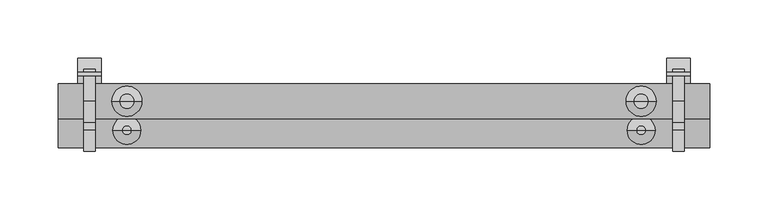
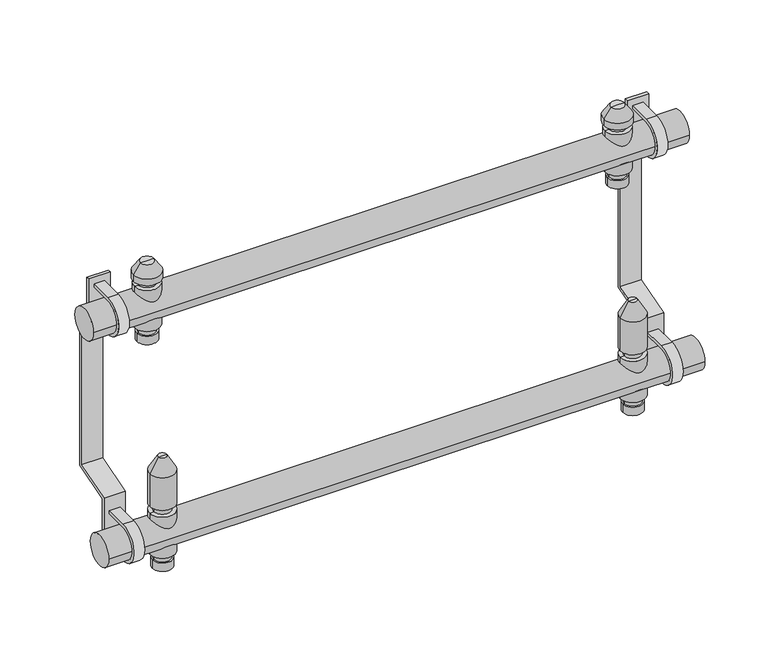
"""IFC4 building model written with IfcOpenShell, lengths in millimetres: valve geometry, PL AT_Manifold_FT-EV : 10 circuits."""

import ifcopenshell
import ifcopenshell.guid

model = None  # the IFC model being written
_history = None  # IfcOwnerHistory: only IFC2X3 demands one
_inside = {}  # id of a spatial element -> (the spatial element, [elements in it])
_under = {}  # id of a project, library or spatial element -> (it, [spatial elements below it])
_declared = {}  # id of a project -> (the project, [libraries it declares])
_typed = {}  # id of a type object -> (the type object, [elements of that type])
_made_of = {}  # id of a material, layer set ... -> (it, [elements and type objects made of it])


def new_model(schema):
    """Start an empty IFC model of exactly this schema.

    Asked for "IFC4X3", IfcOpenShell would pick the latest addendum, in which some entities
    have other attributes; the version numbers below select the first issue.
    IFC2X3 requires an IfcOwnerHistory on every rooted entity: one is made here for all.
    """
    global model, _history
    if schema == "IFC4X3":
        model = ifcopenshell.file(schema_version=(4, 3, 0, 0))
    else:
        model = ifcopenshell.file(schema=schema)
    _inside.clear()
    _under.clear()
    _declared.clear()
    _typed.clear()
    _made_of.clear()
    _history = None
    if model.schema == "IFC2X3":
        org = make("IfcOrganization", Name="unknown")
        user = make(
            "IfcPersonAndOrganization",
            ThePerson=make("IfcPerson", FamilyName="unknown"),
            TheOrganization=org,
        )
        app = make(
            "IfcApplication",
            ApplicationDeveloper=org,
            Version="unknown",
            ApplicationFullName="unknown",
            ApplicationIdentifier="unknown",
        )
        _history = make(
            "IfcOwnerHistory",
            OwningUser=user,
            OwningApplication=app,
            ChangeAction="ADDED",
            CreationDate=0,
        )
    return model


def make(cls, **values):
    """One entity of the class cls with the attributes given. An attribute that is None is left unset."""
    return model.create_entity(
        cls, **{name: value for name, value in values.items() if value is not None}
    )


def rooted(cls, **values):
    """An entity with a GlobalId (a new one), such as an element, a storey or a relation."""
    return make(cls, GlobalId=ifcopenshell.guid.new(), OwnerHistory=_history, **values)


def si_unit(unit_type, name, prefix=None):
    """IfcSIUnit, for example si_unit("LENGTHUNIT", "METRE", prefix="MILLI")."""
    return make("IfcSIUnit", UnitType=unit_type, Prefix=prefix, Name=name)


def assignment(units):
    """IfcUnitAssignment: the units of a project."""
    return None if units is None else make("IfcUnitAssignment", Units=units)


def point(xyz):
    """IfcCartesianPoint."""
    return None if xyz is None else make("IfcCartesianPoint", Coordinates=xyz)


def direction(xyz):
    """IfcDirection."""
    return None if xyz is None else make("IfcDirection", DirectionRatios=xyz)


def frame(location, z_axis=None, x_axis=None):
    """IfcAxis2Placement3D, a coordinate frame: its origin and axes. An axis left out is left unset."""
    return make(
        "IfcAxis2Placement3D",
        Location=point(location),
        Axis=direction(z_axis),
        RefDirection=direction(x_axis),
    )


def frame_2d(location, x_axis=None):
    """IfcAxis2Placement2D, a coordinate frame in the plane: its origin and x axis."""
    return make(
        "IfcAxis2Placement2D", Location=point(location), RefDirection=direction(x_axis)
    )


def origin():
    """The frame at (0, 0, 0) with its axes left unset."""
    return frame((0.0, 0.0, 0.0))


def origin_2d():
    """The frame at (0, 0) in the plane with its x axis left unset."""
    return frame_2d((0.0, 0.0))


def place(relative_to, where):
    """IfcLocalPlacement: puts the frame where relative to a parent placement (None: the world)."""
    return make(
        "IfcLocalPlacement", PlacementRelTo=relative_to, RelativePlacement=where
    )


def context(
    kind, dimensions, precision=None, world=None, true_north=None, identifier=None
):
    """IfcGeometricRepresentationContext, for example the 3D "Model" context."""
    return make(
        "IfcGeometricRepresentationContext",
        ContextIdentifier=identifier,
        ContextType=kind,
        CoordinateSpaceDimension=dimensions,
        Precision=precision,
        WorldCoordinateSystem=world,
        TrueNorth=true_north,
    )


def project(units=None, contexts=None):
    """IfcProject with its units and contexts."""
    return rooted(
        "IfcProject",
        Name="project",
        RepresentationContexts=contexts,
        UnitsInContext=assignment(units),
    )


def spatial(cls, under=None, at=None, **own):
    """A site, building, storey or space (cls), placed at a placement, below another one or the project."""
    s = rooted(cls, ObjectPlacement=at, **own)
    if under is not None:
        _under.setdefault(under.id(), (under, []))[1].append(s)
    return s


def polyline(points):
    """IfcPolyline through the points."""
    return make("IfcPolyline", Points=[point(p) for p in points])


def circle_curve(where, radius):
    """IfcCircle in the frame where."""
    return make("IfcCircle", Position=where, Radius=radius)


def trimmed(basis, trim1, trim2, sense, master):
    """IfcTrimmedCurve: the piece of a basis curve between two trims."""
    return make(
        "IfcTrimmedCurve",
        BasisCurve=basis,
        Trim1=trim1,
        Trim2=trim2,
        SenseAgreement=sense,
        MasterRepresentation=master,
    )


def segment(curve, same_sense, transition):
    """IfcCompositeCurveSegment."""
    return make(
        "IfcCompositeCurveSegment",
        Transition=transition,
        SameSense=same_sense,
        ParentCurve=curve,
    )


def composite_curve(segments, self_intersect=None):
    """IfcCompositeCurve: segments joined end to end."""
    return make("IfcCompositeCurve", Segments=segments, SelfIntersect=self_intersect)


def outline(outer, holes=None, kind="AREA"):
    """IfcArbitraryClosedProfileDef: a profile drawn as a closed curve; with holes, ...WithVoids."""
    if holes is None:
        return make("IfcArbitraryClosedProfileDef", ProfileType=kind, OuterCurve=outer)
    return make(
        "IfcArbitraryProfileDefWithVoids",
        ProfileType=kind,
        OuterCurve=outer,
        InnerCurves=holes,
    )


def extrude(swept, where, along, depth):
    """IfcExtrudedAreaSolid: the profile swept, set in the frame where, extruded along a direction by depth."""
    return make(
        "IfcExtrudedAreaSolid",
        SweptArea=swept,
        Position=where,
        ExtrudedDirection=direction(along),
        Depth=depth,
    )


def shape(context_of_items, identifier, shape_type, items):
    """IfcShapeRepresentation: the items that make up one representation, for example the "Body"."""
    return make(
        "IfcShapeRepresentation",
        ContextOfItems=context_of_items,
        RepresentationIdentifier=identifier,
        RepresentationType=shape_type,
        Items=items,
    )


def source(mapping_origin, context_of_items, identifier, shape_type, items):
    """IfcRepresentationMap: a shape defined once, which mapped items show again and again."""
    return make(
        "IfcRepresentationMap",
        MappingOrigin=mapping_origin,
        MappedRepresentation=shape(context_of_items, identifier, shape_type, items),
    )


def transform(
    local_origin,
    x_axis=None,
    y_axis=None,
    z_axis=None,
    scale=None,
    scale2=None,
    scale3=None,
    uniform=True,
):
    """IfcCartesianTransformationOperator3D, or its non-uniform kind. x_axis, y_axis, z_axis: its Axis1, 2, 3."""
    if uniform:
        return make(
            "IfcCartesianTransformationOperator3D",
            Axis1=direction(x_axis),
            Axis2=direction(y_axis),
            LocalOrigin=point(local_origin),
            Scale=scale,
            Axis3=direction(z_axis),
        )
    return make(
        "IfcCartesianTransformationOperator3DnonUniform",
        Axis1=direction(x_axis),
        Axis2=direction(y_axis),
        LocalOrigin=point(local_origin),
        Scale=scale,
        Axis3=direction(z_axis),
        Scale2=scale2,
        Scale3=scale3,
    )


def mapped(mapping_source, mapping_target):
    """IfcMappedItem: shows the shape of a source again, moved by a transform."""
    return make(
        "IfcMappedItem", MappingSource=mapping_source, MappingTarget=mapping_target
    )


def made_of(thing, what):
    """Note that an element or type object is made of a material, layer set ...; save() writes the relation."""
    if what is not None:
        _made_of.setdefault(what.id(), (what, []))[1].append(thing)
    return thing


def element(
    cls,
    number,
    at=None,
    inside=None,
    cuts=None,
    type_object=None,
    material=None,
    context=None,
    identifier="Body",
    shape_type=None,
    held_by="IfcProductDefinitionShape",
    body=None,
    shapes=None,
    **own,
):
    """One element of the class cls, such as IfcWall. Its Tag is "e" and its number.

    at: its placement. inside: the storey or other place that contains it. cuts: it is an
    opening in that element (IfcRelVoidsElement). A single representation is given by context,
    identifier, shape_type and body (its items); several are given by shapes. held_by: the class
    of the entity that holds the representations. save() writes the other relations.
    """
    e = rooted(cls, Tag="e%d" % number, ObjectPlacement=at, **own)
    if body is not None:
        shapes = [shape(context, identifier, shape_type, body)]
    if shapes is not None:
        e.Representation = make(held_by, Representations=shapes)
    if inside is not None:
        _inside.setdefault(inside.id(), (inside, []))[1].append(e)
    if cuts is not None:
        rooted(
            "IfcRelVoidsElement", RelatingBuildingElement=cuts, RelatedOpeningElement=e
        )
    if type_object is not None:
        _typed.setdefault(type_object.id(), (type_object, []))[1].append(e)
    return made_of(e, material)


def aggregate(whole, parts):
    """IfcRelAggregates: a whole, such as a stair, and the parts it consists of."""
    return rooted("IfcRelAggregates", RelatingObject=whole, RelatedObjects=parts)


def save(model, path):
    """Write the relations noted so far, then the file.

    IfcRelAggregates (storeys below a building ...), IfcRelContainedInSpatialStructure (elements
    in a storey), IfcRelDefinesByType, IfcRelAssociatesMaterial and IfcRelDeclares: one each for
    every whole, place, type object, material and project.
    """
    for whole, parts in _under.values():
        aggregate(whole, parts)
    for where, things in _inside.values():
        rooted(
            "IfcRelContainedInSpatialStructure",
            RelatedElements=things,
            RelatingStructure=where,
        )
    for kind, things in _typed.values():
        rooted("IfcRelDefinesByType", RelatedObjects=things, RelatingType=kind)
    for what, things in _made_of.values():
        rooted("IfcRelAssociatesMaterial", RelatedObjects=things, RelatingMaterial=what)
    for by, libraries in _declared.values():
        rooted("IfcRelDeclares", RelatingContext=by, RelatedDefinitions=libraries)
    model.write(path)


def plane_surface(at):
    """IfcPlane: the flat surface through the origin of the frame at, square to its z axis."""
    return make("IfcPlane", Position=at)


def cylinder_surface(at, radius):
    """IfcCylindricalSurface: all points at the distance radius from the z axis of the frame at."""
    return make("IfcCylindricalSurface", Position=at, Radius=radius)


def revolved_surface(curve, axis_point, axis_direction):
    """IfcSurfaceOfRevolution: the curve turned about the line through axis_point along axis_direction."""
    return make(
        "IfcSurfaceOfRevolution",
        SweptCurve=make("IfcArbitraryOpenProfileDef", ProfileType="CURVE", Curve=curve),
        AxisPosition=make("IfcAxis1Placement", Location=point(axis_point), Axis=direction(axis_direction)),
    )


def advanced_brep(points, edges, surfaces, faces):
    """IfcAdvancedBrep: a solid bounded by faces that lie on surfaces and meet in shared edges.

    An edge is (start, end): straight between two places in points (the first is 0);
    or (start, end, curve); or (start, end, curve, False) where it runs against its curve.
    A face is (place in surfaces, loops), or (place, loops, False) where it looks against
    its surface's normal. A loop lists edges by number (the first is 1), with a minus sign
    where the edge is run from its end to its start. The first loop is the outer one.
    """
    corners = [point(p) for p in points]
    vertices = [make("IfcVertexPoint", VertexGeometry=c) for c in corners]
    made = []
    for start, end, *more in edges:
        made.append(
            make(
                "IfcEdgeCurve",
                EdgeStart=vertices[start],
                EdgeEnd=vertices[end],
                EdgeGeometry=more[0] if more else make("IfcPolyline", Points=[corners[start], corners[end]]),
                SameSense=more[1] if len(more) > 1 else True,
            )
        )
    hull = []
    for where, loops, *sense in faces:
        bounds = []
        for j, loop in enumerate(loops):
            ring = [make("IfcOrientedEdge", EdgeElement=made[abs(k) - 1], Orientation=k > 0) for k in loop]
            bounds.append(
                make(
                    "IfcFaceOuterBound" if j == 0 else "IfcFaceBound",
                    Bound=make("IfcEdgeLoop", EdgeList=ring),
                    Orientation=True,
                )
            )
        hull.append(make("IfcAdvancedFace", Bounds=bounds, FaceSurface=surfaces[where], SameSense=sense[0] if sense else True))
    return make("IfcAdvancedBrep", Outer=make("IfcClosedShell", CfsFaces=hull))


def valve_882e19a6(model_context):
    return source(origin(), model_context, "Body", "SolidModel", [
        advanced_brep(
        [(474.5, 0.0, -35.11267), (493.5, 0.0, -35.11267), (484.0, 0.0, -35.11267), (474.5, 0.0, -27.0369646), (493.5, 0.0, -27.0369646), (476.0, 0.0, -27.0369646), (492.0, 0.0, -27.0369646), (476.0, 0.0, -20.330253), (492.0, 0.0, -20.330253), (472.0, 0.0, -20.330253), (496.0, 0.0, -20.330253), (472.0, 0.0, 20.330253), (496.0, 0.0, 20.330253), (476.0, 0.0, 20.330253), (492.0, 0.0, 20.330253), (476.0, 0.0, 27.0474786), (492.0, 0.0, 27.0474786), (472.0, 0.0, 27.0474786), (496.0, 0.0, 27.0474786), (472.0, 0.0, 59.4084325), (496.0, 0.0, 59.4084325), (480.0, 0.0, 73.264839), (488.0, 0.0, 73.264839), (484.0, 0.0, 73.264839)],
        [
            (0, 1, circle_curve(frame((484.0, 0.0, -35.11267), z_axis=(0.0, 0.0, -1.0), x_axis=(1.0, 0.0, 0.0)), 9.5)),
            (1, 2),
            (2, 0),
            (1, 0, circle_curve(frame((484.0, 0.0, -35.11267), z_axis=(0.0, 0.0, -1.0), x_axis=(1.0, 0.0, 0.0)), 9.5)),
            (3, 4, circle_curve(frame((484.0, 0.0, -27.0369646), z_axis=(0.0, 0.0, -1.0), x_axis=(1.0, 0.0, 0.0)), 9.5)),
            (4, 1),
            (0, 3),
            (4, 3, circle_curve(frame((484.0, 0.0, -27.0369646), z_axis=(0.0, 0.0, -1.0), x_axis=(1.0, 0.0, 0.0)), 9.5)),
            (5, 6, circle_curve(frame((484.0, 0.0, -27.0369646), z_axis=(0.0, 0.0, -1.0), x_axis=(1.0, 0.0, 0.0)), 8.0)),
            (6, 4),
            (3, 5),
            (6, 5, circle_curve(frame((484.0, 0.0, -27.0369646), z_axis=(0.0, 0.0, -1.0), x_axis=(1.0, 0.0, 0.0)), 8.0)),
            (7, 8, circle_curve(frame((484.0, 0.0, -20.330253), z_axis=(0.0, 0.0, -1.0), x_axis=(1.0, 0.0, 0.0)), 8.0)),
            (8, 6),
            (5, 7),
            (8, 7, circle_curve(frame((484.0, 0.0, -20.330253), z_axis=(0.0, 0.0, -1.0), x_axis=(1.0, 0.0, 0.0)), 8.0)),
            (9, 10, circle_curve(frame((484.0, 0.0, -20.330253), z_axis=(0.0, 0.0, -1.0), x_axis=(1.0, 0.0, 0.0)), 12.0)),
            (10, 8),
            (7, 9),
            (10, 9, circle_curve(frame((484.0, 0.0, -20.330253), z_axis=(0.0, 0.0, -1.0), x_axis=(1.0, 0.0, 0.0)), 12.0)),
            (11, 12, circle_curve(frame((484.0, 0.0, 20.330253), z_axis=(0.0, 0.0, -1.0), x_axis=(1.0, 0.0, 0.0)), 12.0)),
            (12, 10),
            (9, 11),
            (12, 11, circle_curve(frame((484.0, 0.0, 20.330253), z_axis=(0.0, 0.0, -1.0), x_axis=(1.0, 0.0, 0.0)), 12.0)),
            (13, 14, circle_curve(frame((484.0, 0.0, 20.330253), z_axis=(0.0, 0.0, -1.0), x_axis=(1.0, 0.0, 0.0)), 8.0)),
            (14, 12),
            (11, 13),
            (14, 13, circle_curve(frame((484.0, 0.0, 20.330253), z_axis=(0.0, 0.0, -1.0), x_axis=(1.0, 0.0, 0.0)), 8.0)),
            (15, 16, circle_curve(frame((484.0, 0.0, 27.0474786), z_axis=(0.0, 0.0, -1.0), x_axis=(1.0, 0.0, 0.0)), 8.0)),
            (16, 14),
            (13, 15),
            (16, 15, circle_curve(frame((484.0, 0.0, 27.0474786), z_axis=(0.0, 0.0, -1.0), x_axis=(1.0, 0.0, 0.0)), 8.0)),
            (17, 18, circle_curve(frame((484.0, 0.0, 27.0474786), z_axis=(0.0, 0.0, -1.0), x_axis=(1.0, 0.0, 0.0)), 12.0)),
            (18, 16),
            (15, 17),
            (18, 17, circle_curve(frame((484.0, 0.0, 27.0474786), z_axis=(0.0, 0.0, -1.0), x_axis=(1.0, 0.0, 0.0)), 12.0)),
            (19, 20, circle_curve(frame((484.0, 0.0, 59.4084325), z_axis=(0.0, 0.0, -1.0), x_axis=(1.0, 0.0, 0.0)), 12.0)),
            (20, 18),
            (17, 19),
            (20, 19, circle_curve(frame((484.0, 0.0, 59.4084325), z_axis=(0.0, 0.0, -1.0), x_axis=(1.0, 0.0, 0.0)), 12.0)),
            (21, 22, circle_curve(frame((484.0, 0.0, 73.264839), z_axis=(0.0, 0.0, -1.0), x_axis=(1.0, 0.0, 0.0)), 4.0)),
            (22, 20),
            (19, 21),
            (22, 21, circle_curve(frame((484.0, 0.0, 73.264839), z_axis=(0.0, 0.0, -1.0), x_axis=(1.0, 0.0, 0.0)), 4.0)),
            (23, 22),
            (21, 23),
        ],
        [
            plane_surface(frame((484.0, 0.0, -35.11267), z_axis=(0.0, 0.0, -1.0), x_axis=(1.0, 0.0, 0.0))),
            cylinder_surface(frame((484.0, 0.0, 58.264839), z_axis=(0.0, 0.0, 1.0), x_axis=(1.0, 0.0, 0.0)), 9.5),
            plane_surface(frame((484.0, 0.0, -27.0369646), z_axis=(0.0, 0.0, 1.0), x_axis=(1.0, 0.0, 0.0))),
            cylinder_surface(frame((484.0, 0.0, 58.264839), z_axis=(0.0, 0.0, 1.0), x_axis=(1.0, 0.0, 0.0)), 8.0),
            plane_surface(frame((484.0, 0.0, -20.330253), z_axis=(0.0, 0.0, -1.0), x_axis=(1.0, 0.0, 0.0))),
            cylinder_surface(frame((484.0, 0.0, 58.264839), z_axis=(0.0, 0.0, 1.0), x_axis=(1.0, 0.0, 0.0)), 12.0),
            plane_surface(frame((484.0, 0.0, 20.330253), z_axis=(0.0, 0.0, 1.0), x_axis=(1.0, 0.0, 0.0))),
            plane_surface(frame((484.0, 0.0, 27.0474786), z_axis=(0.0, 0.0, -1.0), x_axis=(1.0, 0.0, 0.0))),
            revolved_surface(polyline([(496.0, 0.0, 59.4084325), (488.0, 0.0, 73.264839)]), (484.0, 0.0, 58.264839), (0.0, 0.0, 1.0)),
            plane_surface(frame((484.0, 0.0, 73.264839), z_axis=(0.0, 0.0, 1.0), x_axis=(1.0, 0.0, 0.0))),
        ],
        [
            (0, [[1, 2, 3]]),
            (0, [[4, -3, -2]]),
            (1, [[5, 6, -1, 7]]),
            (1, [[8, -7, -4, -6]]),
            (2, [[9, 10, -5, 11]]),
            (2, [[12, -11, -8, -10]]),
            (3, [[13, 14, -9, 15]]),
            (3, [[16, -15, -12, -14]]),
            (4, [[17, 18, -13, 19]]),
            (4, [[20, -19, -16, -18]]),
            (5, [[21, 22, -17, 23]]),
            (5, [[24, -23, -20, -22]]),
            (6, [[25, 26, -21, 27]]),
            (6, [[28, -27, -24, -26]]),
            (3, [[29, 30, -25, 31]]),
            (3, [[32, -31, -28, -30]]),
            (7, [[33, 34, -29, 35]]),
            (7, [[36, -35, -32, -34]]),
            (5, [[37, 38, -33, 39]]),
            (5, [[40, -39, -36, -38]]),
            (8, [[41, 42, -37, 43]]),
            (8, [[44, -43, -40, -42]]),
            (9, [[45, -41, 46]]),
            (9, [[-46, -44, -45]]),
        ],
    ),
        advanced_brep(
        [(474.5, 25.0, 174.88733), (493.5, 25.0, 174.88733), (484.0, 25.0, 174.88733), (474.5, 25.0, 182.9630354), (493.5, 25.0, 182.9630354), (476.0, 25.0, 182.9630354), (492.0, 25.0, 182.9630354), (476.0, 25.0, 189.669747), (492.0, 25.0, 189.669747), (472.0, 25.0, 189.669747), (496.0, 25.0, 189.669747), (472.0, 25.0, 230.330253), (496.0, 25.0, 230.330253), (476.0, 25.0, 230.330253), (492.0, 25.0, 230.330253), (476.0, 25.0, 236.0474786), (492.0, 25.0, 236.0474786), (471.0, 25.0, 236.0474786), (497.0, 25.0, 236.0474786), (471.0, 25.0, 242.337955), (497.0, 25.0, 242.337955), (477.6551779, 25.0, 251.842534), (490.3448221, 25.0, 251.842534), (484.0, 25.0, 251.842534)],
        [
            (0, 1, circle_curve(frame((484.0, 25.0, 174.88733), z_axis=(0.0, 0.0, -1.0), x_axis=(1.0, 0.0, 0.0)), 9.5)),
            (1, 2),
            (2, 0),
            (1, 0, circle_curve(frame((484.0, 25.0, 174.88733), z_axis=(0.0, 0.0, -1.0), x_axis=(1.0, 0.0, 0.0)), 9.5)),
            (3, 4, circle_curve(frame((484.0, 25.0, 182.9630354), z_axis=(0.0, 0.0, -1.0), x_axis=(1.0, 0.0, 0.0)), 9.5)),
            (4, 1),
            (0, 3),
            (4, 3, circle_curve(frame((484.0, 25.0, 182.9630354), z_axis=(0.0, 0.0, -1.0), x_axis=(1.0, 0.0, 0.0)), 9.5)),
            (5, 6, circle_curve(frame((484.0, 25.0, 182.9630354), z_axis=(0.0, 0.0, -1.0), x_axis=(1.0, 0.0, 0.0)), 8.0)),
            (6, 4),
            (3, 5),
            (6, 5, circle_curve(frame((484.0, 25.0, 182.9630354), z_axis=(0.0, 0.0, -1.0), x_axis=(1.0, 0.0, 0.0)), 8.0)),
            (7, 8, circle_curve(frame((484.0, 25.0, 189.669747), z_axis=(0.0, 0.0, -1.0), x_axis=(1.0, 0.0, 0.0)), 8.0)),
            (8, 6),
            (5, 7),
            (8, 7, circle_curve(frame((484.0, 25.0, 189.669747), z_axis=(0.0, 0.0, -1.0), x_axis=(1.0, 0.0, 0.0)), 8.0)),
            (9, 10, circle_curve(frame((484.0, 25.0, 189.669747), z_axis=(0.0, 0.0, -1.0), x_axis=(1.0, 0.0, 0.0)), 12.0)),
            (10, 8),
            (7, 9),
            (10, 9, circle_curve(frame((484.0, 25.0, 189.669747), z_axis=(0.0, 0.0, -1.0), x_axis=(1.0, 0.0, 0.0)), 12.0)),
            (11, 12, circle_curve(frame((484.0, 25.0, 230.330253), z_axis=(0.0, 0.0, -1.0), x_axis=(1.0, 0.0, 0.0)), 12.0)),
            (12, 10),
            (9, 11),
            (12, 11, circle_curve(frame((484.0, 25.0, 230.330253), z_axis=(0.0, 0.0, -1.0), x_axis=(1.0, 0.0, 0.0)), 12.0)),
            (13, 14, circle_curve(frame((484.0, 25.0, 230.330253), z_axis=(0.0, 0.0, -1.0), x_axis=(1.0, 0.0, 0.0)), 8.0)),
            (14, 12),
            (11, 13),
            (14, 13, circle_curve(frame((484.0, 25.0, 230.330253), z_axis=(0.0, 0.0, -1.0), x_axis=(1.0, 0.0, 0.0)), 8.0)),
            (15, 16, circle_curve(frame((484.0, 25.0, 236.0474786), z_axis=(0.0, 0.0, -1.0), x_axis=(1.0, 0.0, 0.0)), 8.0)),
            (16, 14),
            (13, 15),
            (16, 15, circle_curve(frame((484.0, 25.0, 236.0474786), z_axis=(0.0, 0.0, -1.0), x_axis=(1.0, 0.0, 0.0)), 8.0)),
            (17, 18, circle_curve(frame((484.0, 25.0, 236.0474786), z_axis=(0.0, 0.0, -1.0), x_axis=(1.0, 0.0, 0.0)), 13.0)),
            (18, 16),
            (15, 17),
            (18, 17, circle_curve(frame((484.0, 25.0, 236.0474786), z_axis=(0.0, 0.0, -1.0), x_axis=(1.0, 0.0, 0.0)), 13.0)),
            (19, 20, circle_curve(frame((484.0, 25.0, 242.337955), z_axis=(0.0, 0.0, -1.0), x_axis=(1.0, 0.0, 0.0)), 13.0)),
            (20, 18),
            (17, 19),
            (20, 19, circle_curve(frame((484.0, 25.0, 242.337955), z_axis=(0.0, 0.0, -1.0), x_axis=(1.0, 0.0, 0.0)), 13.0)),
            (21, 22, circle_curve(frame((484.0, 25.0, 251.842534), z_axis=(0.0, 0.0, -1.0), x_axis=(1.0, 0.0, 0.0)), 6.3448221)),
            (22, 20),
            (19, 21),
            (22, 21, circle_curve(frame((484.0, 25.0, 251.842534), z_axis=(0.0, 0.0, -1.0), x_axis=(1.0, 0.0, 0.0)), 6.3448221)),
            (23, 22),
            (21, 23),
        ],
        [
            plane_surface(frame((484.0, 25.0, 174.88733), z_axis=(0.0, 0.0, -1.0), x_axis=(1.0, 0.0, 0.0))),
            cylinder_surface(frame((484.0, 25.0, 247.7026565), z_axis=(0.0, 0.0, 1.0), x_axis=(1.0, 0.0, 0.0)), 9.5),
            plane_surface(frame((484.0, 25.0, 182.9630354), z_axis=(0.0, 0.0, 1.0), x_axis=(1.0, 0.0, 0.0))),
            cylinder_surface(frame((484.0, 25.0, 247.7026565), z_axis=(0.0, 0.0, 1.0), x_axis=(1.0, 0.0, 0.0)), 8.0),
            plane_surface(frame((484.0, 25.0, 189.669747), z_axis=(0.0, 0.0, -1.0), x_axis=(1.0, 0.0, 0.0))),
            cylinder_surface(frame((484.0, 25.0, 247.7026565), z_axis=(0.0, 0.0, 1.0), x_axis=(1.0, 0.0, 0.0)), 12.0),
            plane_surface(frame((484.0, 25.0, 230.330253), z_axis=(0.0, 0.0, 1.0), x_axis=(1.0, 0.0, 0.0))),
            plane_surface(frame((484.0, 25.0, 236.0474786), z_axis=(0.0, 0.0, -1.0), x_axis=(1.0, 0.0, 0.0))),
            cylinder_surface(frame((484.0, 25.0, 247.7026565), z_axis=(0.0, 0.0, 1.0), x_axis=(1.0, 0.0, 0.0)), 13.0),
            revolved_surface(polyline([(497.0, 25.0, 242.337955), (490.3448221, 25.0, 251.842534)]), (484.0, 25.0, 247.7026565), (0.0, 0.0, 1.0)),
            plane_surface(frame((484.0, 25.0, 251.842534), z_axis=(0.0, 0.0, 1.0), x_axis=(1.0, 0.0, 0.0))),
        ],
        [
            (0, [[1, 2, 3]]),
            (0, [[4, -3, -2]]),
            (1, [[5, 6, -1, 7]]),
            (1, [[8, -7, -4, -6]]),
            (2, [[9, 10, -5, 11]]),
            (2, [[12, -11, -8, -10]]),
            (3, [[13, 14, -9, 15]]),
            (3, [[16, -15, -12, -14]]),
            (4, [[17, 18, -13, 19]]),
            (4, [[20, -19, -16, -18]]),
            (5, [[21, 22, -17, 23]]),
            (5, [[24, -23, -20, -22]]),
            (6, [[25, 26, -21, 27]]),
            (6, [[28, -27, -24, -26]]),
            (3, [[29, 30, -25, 31]]),
            (3, [[32, -31, -28, -30]]),
            (7, [[33, 34, -29, 35]]),
            (7, [[36, -35, -32, -34]]),
            (8, [[37, 38, -33, 39]]),
            (8, [[40, -39, -36, -38]]),
            (9, [[41, 42, -37, 43]]),
            (9, [[44, -43, -40, -42]]),
            (10, [[45, -41, 46]]),
            (10, [[-46, -44, -45]]),
        ],
    ),
        advanced_brep(
        [(32.5, 25.0, 174.88733), (51.5, 25.0, 174.88733), (42.0, 25.0, 174.88733), (32.5, 25.0, 182.9630354), (51.5, 25.0, 182.9630354), (34.0, 25.0, 182.9630354), (50.0, 25.0, 182.9630354), (34.0, 25.0, 189.669747), (50.0, 25.0, 189.669747), (30.0, 25.0, 189.669747), (54.0, 25.0, 189.669747), (30.0, 25.0, 230.330253), (54.0, 25.0, 230.330253), (34.0, 25.0, 230.330253), (50.0, 25.0, 230.330253), (34.0, 25.0, 236.0474786), (50.0, 25.0, 236.0474786), (29.0, 25.0, 236.0474786), (55.0, 25.0, 236.0474786), (29.0, 25.0, 242.337955), (55.0, 25.0, 242.337955), (35.6551779, 25.0, 251.842534), (48.3448221, 25.0, 251.842534), (42.0, 25.0, 251.842534)],
        [
            (0, 1, circle_curve(frame((42.0, 25.0, 174.88733), z_axis=(0.0, 0.0, -1.0), x_axis=(1.0, 0.0, 0.0)), 9.5)),
            (1, 2),
            (2, 0),
            (1, 0, circle_curve(frame((42.0, 25.0, 174.88733), z_axis=(0.0, 0.0, -1.0), x_axis=(1.0, 0.0, 0.0)), 9.5)),
            (3, 4, circle_curve(frame((42.0, 25.0, 182.9630354), z_axis=(0.0, 0.0, -1.0), x_axis=(1.0, 0.0, 0.0)), 9.5)),
            (4, 1),
            (0, 3),
            (4, 3, circle_curve(frame((42.0, 25.0, 182.9630354), z_axis=(0.0, 0.0, -1.0), x_axis=(1.0, 0.0, 0.0)), 9.5)),
            (5, 6, circle_curve(frame((42.0, 25.0, 182.9630354), z_axis=(0.0, 0.0, -1.0), x_axis=(1.0, 0.0, 0.0)), 8.0)),
            (6, 4),
            (3, 5),
            (6, 5, circle_curve(frame((42.0, 25.0, 182.9630354), z_axis=(0.0, 0.0, -1.0), x_axis=(1.0, 0.0, 0.0)), 8.0)),
            (7, 8, circle_curve(frame((42.0, 25.0, 189.669747), z_axis=(0.0, 0.0, -1.0), x_axis=(1.0, 0.0, 0.0)), 8.0)),
            (8, 6),
            (5, 7),
            (8, 7, circle_curve(frame((42.0, 25.0, 189.669747), z_axis=(0.0, 0.0, -1.0), x_axis=(1.0, 0.0, 0.0)), 8.0)),
            (9, 10, circle_curve(frame((42.0, 25.0, 189.669747), z_axis=(0.0, 0.0, -1.0), x_axis=(1.0, 0.0, 0.0)), 12.0)),
            (10, 8),
            (7, 9),
            (10, 9, circle_curve(frame((42.0, 25.0, 189.669747), z_axis=(0.0, 0.0, -1.0), x_axis=(1.0, 0.0, 0.0)), 12.0)),
            (11, 12, circle_curve(frame((42.0, 25.0, 230.330253), z_axis=(0.0, 0.0, -1.0), x_axis=(1.0, 0.0, 0.0)), 12.0)),
            (12, 10),
            (9, 11),
            (12, 11, circle_curve(frame((42.0, 25.0, 230.330253), z_axis=(0.0, 0.0, -1.0), x_axis=(1.0, 0.0, 0.0)), 12.0)),
            (13, 14, circle_curve(frame((42.0, 25.0, 230.330253), z_axis=(0.0, 0.0, -1.0), x_axis=(1.0, 0.0, 0.0)), 8.0)),
            (14, 12),
            (11, 13),
            (14, 13, circle_curve(frame((42.0, 25.0, 230.330253), z_axis=(0.0, 0.0, -1.0), x_axis=(1.0, 0.0, 0.0)), 8.0)),
            (15, 16, circle_curve(frame((42.0, 25.0, 236.0474786), z_axis=(0.0, 0.0, -1.0), x_axis=(1.0, 0.0, 0.0)), 8.0)),
            (16, 14),
            (13, 15),
            (16, 15, circle_curve(frame((42.0, 25.0, 236.0474786), z_axis=(0.0, 0.0, -1.0), x_axis=(1.0, 0.0, 0.0)), 8.0)),
            (17, 18, circle_curve(frame((42.0, 25.0, 236.0474786), z_axis=(0.0, 0.0, -1.0), x_axis=(1.0, 0.0, 0.0)), 13.0)),
            (18, 16),
            (15, 17),
            (18, 17, circle_curve(frame((42.0, 25.0, 236.0474786), z_axis=(0.0, 0.0, -1.0), x_axis=(1.0, 0.0, 0.0)), 13.0)),
            (19, 20, circle_curve(frame((42.0, 25.0, 242.337955), z_axis=(0.0, 0.0, -1.0), x_axis=(1.0, 0.0, 0.0)), 13.0)),
            (20, 18),
            (17, 19),
            (20, 19, circle_curve(frame((42.0, 25.0, 242.337955), z_axis=(0.0, 0.0, -1.0), x_axis=(1.0, 0.0, 0.0)), 13.0)),
            (21, 22, circle_curve(frame((42.0, 25.0, 251.842534), z_axis=(0.0, 0.0, -1.0), x_axis=(1.0, 0.0, 0.0)), 6.3448221)),
            (22, 20),
            (19, 21),
            (22, 21, circle_curve(frame((42.0, 25.0, 251.842534), z_axis=(0.0, 0.0, -1.0), x_axis=(1.0, 0.0, 0.0)), 6.3448221)),
            (23, 22),
            (21, 23),
        ],
        [
            plane_surface(frame((42.0, 25.0, 174.88733), z_axis=(0.0, 0.0, -1.0), x_axis=(1.0, 0.0, 0.0))),
            cylinder_surface(frame((42.0, 25.0, 247.7026565), z_axis=(0.0, 0.0, 1.0), x_axis=(1.0, 0.0, 0.0)), 9.5),
            plane_surface(frame((42.0, 25.0, 182.9630354), z_axis=(0.0, 0.0, 1.0), x_axis=(1.0, 0.0, 0.0))),
            cylinder_surface(frame((42.0, 25.0, 247.7026565), z_axis=(0.0, 0.0, 1.0), x_axis=(1.0, 0.0, 0.0)), 8.0),
            plane_surface(frame((42.0, 25.0, 189.669747), z_axis=(0.0, 0.0, -1.0), x_axis=(1.0, 0.0, 0.0))),
            cylinder_surface(frame((42.0, 25.0, 247.7026565), z_axis=(0.0, 0.0, 1.0), x_axis=(1.0, 0.0, 0.0)), 12.0),
            plane_surface(frame((42.0, 25.0, 230.330253), z_axis=(0.0, 0.0, 1.0), x_axis=(1.0, 0.0, 0.0))),
            plane_surface(frame((42.0, 25.0, 236.0474786), z_axis=(0.0, 0.0, -1.0), x_axis=(1.0, 0.0, 0.0))),
            cylinder_surface(frame((42.0, 25.0, 247.7026565), z_axis=(0.0, 0.0, 1.0), x_axis=(1.0, 0.0, 0.0)), 13.0),
            revolved_surface(polyline([(55.0, 25.0, 242.337955), (48.3448221, 25.0, 251.842534)]), (42.0, 25.0, 247.7026565), (0.0, 0.0, 1.0)),
            plane_surface(frame((42.0, 25.0, 251.842534), z_axis=(0.0, 0.0, 1.0), x_axis=(1.0, 0.0, 0.0))),
        ],
        [
            (0, [[1, 2, 3]]),
            (0, [[4, -3, -2]]),
            (1, [[5, 6, -1, 7]]),
            (1, [[8, -7, -4, -6]]),
            (2, [[9, 10, -5, 11]]),
            (2, [[12, -11, -8, -10]]),
            (3, [[13, 14, -9, 15]]),
            (3, [[16, -15, -12, -14]]),
            (4, [[17, 18, -13, 19]]),
            (4, [[20, -19, -16, -18]]),
            (5, [[21, 22, -17, 23]]),
            (5, [[24, -23, -20, -22]]),
            (6, [[25, 26, -21, 27]]),
            (6, [[28, -27, -24, -26]]),
            (3, [[29, 30, -25, 31]]),
            (3, [[32, -31, -28, -30]]),
            (7, [[33, 34, -29, 35]]),
            (7, [[36, -35, -32, -34]]),
            (8, [[37, 38, -33, 39]]),
            (8, [[40, -39, -36, -38]]),
            (9, [[41, 42, -37, 43]]),
            (9, [[44, -43, -40, -42]]),
            (10, [[45, -41, 46]]),
            (10, [[-46, -44, -45]]),
        ],
    ),
        advanced_brep(
        [(32.5, 0.0, -35.11267), (51.5, 0.0, -35.11267), (42.0, 0.0, -35.11267), (32.5, 0.0, -27.0369646), (51.5, 0.0, -27.0369646), (34.0, 0.0, -27.0369646), (50.0, 0.0, -27.0369646), (34.0, 0.0, -20.330253), (50.0, 0.0, -20.330253), (30.0, 0.0, -20.330253), (54.0, 0.0, -20.330253), (30.0, 0.0, 20.330253), (54.0, 0.0, 20.330253), (34.0, 0.0, 20.330253), (50.0, 0.0, 20.330253), (34.0, 0.0, 27.0474786), (50.0, 0.0, 27.0474786), (30.0, 0.0, 27.0474786), (54.0, 0.0, 27.0474786), (30.0, 0.0, 59.4084325), (54.0, 0.0, 59.4084325), (38.0, 0.0, 73.264839), (46.0, 0.0, 73.264839), (42.0, 0.0, 73.264839)],
        [
            (0, 1, circle_curve(frame((42.0, 0.0, -35.11267), z_axis=(0.0, 0.0, -1.0), x_axis=(1.0, 0.0, 0.0)), 9.5)),
            (1, 2),
            (2, 0),
            (1, 0, circle_curve(frame((42.0, 0.0, -35.11267), z_axis=(0.0, 0.0, -1.0), x_axis=(1.0, 0.0, 0.0)), 9.5)),
            (3, 4, circle_curve(frame((42.0, 0.0, -27.0369646), z_axis=(0.0, 0.0, -1.0), x_axis=(1.0, 0.0, 0.0)), 9.5)),
            (4, 1),
            (0, 3),
            (4, 3, circle_curve(frame((42.0, 0.0, -27.0369646), z_axis=(0.0, 0.0, -1.0), x_axis=(1.0, 0.0, 0.0)), 9.5)),
            (5, 6, circle_curve(frame((42.0, 0.0, -27.0369646), z_axis=(0.0, 0.0, -1.0), x_axis=(1.0, 0.0, 0.0)), 8.0)),
            (6, 4),
            (3, 5),
            (6, 5, circle_curve(frame((42.0, 0.0, -27.0369646), z_axis=(0.0, 0.0, -1.0), x_axis=(1.0, 0.0, 0.0)), 8.0)),
            (7, 8, circle_curve(frame((42.0, 0.0, -20.330253), z_axis=(0.0, 0.0, -1.0), x_axis=(1.0, 0.0, 0.0)), 8.0)),
            (8, 6),
            (5, 7),
            (8, 7, circle_curve(frame((42.0, 0.0, -20.330253), z_axis=(0.0, 0.0, -1.0), x_axis=(1.0, 0.0, 0.0)), 8.0)),
            (9, 10, circle_curve(frame((42.0, 0.0, -20.330253), z_axis=(0.0, 0.0, -1.0), x_axis=(1.0, 0.0, 0.0)), 12.0)),
            (10, 8),
            (7, 9),
            (10, 9, circle_curve(frame((42.0, 0.0, -20.330253), z_axis=(0.0, 0.0, -1.0), x_axis=(1.0, 0.0, 0.0)), 12.0)),
            (11, 12, circle_curve(frame((42.0, 0.0, 20.330253), z_axis=(0.0, 0.0, -1.0), x_axis=(1.0, 0.0, 0.0)), 12.0)),
            (12, 10),
            (9, 11),
            (12, 11, circle_curve(frame((42.0, 0.0, 20.330253), z_axis=(0.0, 0.0, -1.0), x_axis=(1.0, 0.0, 0.0)), 12.0)),
            (13, 14, circle_curve(frame((42.0, 0.0, 20.330253), z_axis=(0.0, 0.0, -1.0), x_axis=(1.0, 0.0, 0.0)), 8.0)),
            (14, 12),
            (11, 13),
            (14, 13, circle_curve(frame((42.0, 0.0, 20.330253), z_axis=(0.0, 0.0, -1.0), x_axis=(1.0, 0.0, 0.0)), 8.0)),
            (15, 16, circle_curve(frame((42.0, 0.0, 27.0474786), z_axis=(0.0, 0.0, -1.0), x_axis=(1.0, 0.0, 0.0)), 8.0)),
            (16, 14),
            (13, 15),
            (16, 15, circle_curve(frame((42.0, 0.0, 27.0474786), z_axis=(0.0, 0.0, -1.0), x_axis=(1.0, 0.0, 0.0)), 8.0)),
            (17, 18, circle_curve(frame((42.0, 0.0, 27.0474786), z_axis=(0.0, 0.0, -1.0), x_axis=(1.0, 0.0, 0.0)), 12.0)),
            (18, 16),
            (15, 17),
            (18, 17, circle_curve(frame((42.0, 0.0, 27.0474786), z_axis=(0.0, 0.0, -1.0), x_axis=(1.0, 0.0, 0.0)), 12.0)),
            (19, 20, circle_curve(frame((42.0, 0.0, 59.4084325), z_axis=(0.0, 0.0, -1.0), x_axis=(1.0, 0.0, 0.0)), 12.0)),
            (20, 18),
            (17, 19),
            (20, 19, circle_curve(frame((42.0, 0.0, 59.4084325), z_axis=(0.0, 0.0, -1.0), x_axis=(1.0, 0.0, 0.0)), 12.0)),
            (21, 22, circle_curve(frame((42.0, 0.0, 73.264839), z_axis=(0.0, 0.0, -1.0), x_axis=(1.0, 0.0, 0.0)), 4.0)),
            (22, 20),
            (19, 21),
            (22, 21, circle_curve(frame((42.0, 0.0, 73.264839), z_axis=(0.0, 0.0, -1.0), x_axis=(1.0, 0.0, 0.0)), 4.0)),
            (23, 22),
            (21, 23),
        ],
        [
            plane_surface(frame((42.0, 0.0, -35.11267), z_axis=(0.0, 0.0, -1.0), x_axis=(1.0, 0.0, 0.0))),
            cylinder_surface(frame((42.0, 0.0, 58.264839), z_axis=(0.0, 0.0, 1.0), x_axis=(1.0, 0.0, 0.0)), 9.5),
            plane_surface(frame((42.0, 0.0, -27.0369646), z_axis=(0.0, 0.0, 1.0), x_axis=(1.0, 0.0, 0.0))),
            cylinder_surface(frame((42.0, 0.0, 58.264839), z_axis=(0.0, 0.0, 1.0), x_axis=(1.0, 0.0, 0.0)), 8.0),
            plane_surface(frame((42.0, 0.0, -20.330253), z_axis=(0.0, 0.0, -1.0), x_axis=(1.0, 0.0, 0.0))),
            cylinder_surface(frame((42.0, 0.0, 58.264839), z_axis=(0.0, 0.0, 1.0), x_axis=(1.0, 0.0, 0.0)), 12.0),
            plane_surface(frame((42.0, 0.0, 20.330253), z_axis=(0.0, 0.0, 1.0), x_axis=(1.0, 0.0, 0.0))),
            plane_surface(frame((42.0, 0.0, 27.0474786), z_axis=(0.0, 0.0, -1.0), x_axis=(1.0, 0.0, 0.0))),
            revolved_surface(polyline([(54.0, 0.0, 59.4084325), (46.0, 0.0, 73.264839)]), (42.0, 0.0, 58.264839), (0.0, 0.0, 1.0)),
            plane_surface(frame((42.0, 0.0, 73.264839), z_axis=(0.0, 0.0, 1.0), x_axis=(1.0, 0.0, 0.0))),
        ],
        [
            (0, [[1, 2, 3]]),
            (0, [[4, -3, -2]]),
            (1, [[5, 6, -1, 7]]),
            (1, [[8, -7, -4, -6]]),
            (2, [[9, 10, -5, 11]]),
            (2, [[12, -11, -8, -10]]),
            (3, [[13, 14, -9, 15]]),
            (3, [[16, -15, -12, -14]]),
            (4, [[17, 18, -13, 19]]),
            (4, [[20, -19, -16, -18]]),
            (5, [[21, 22, -17, 23]]),
            (5, [[24, -23, -20, -22]]),
            (6, [[25, 26, -21, 27]]),
            (6, [[28, -27, -24, -26]]),
            (3, [[29, 30, -25, 31]]),
            (3, [[32, -31, -28, -30]]),
            (7, [[33, 34, -29, 35]]),
            (7, [[36, -35, -32, -34]]),
            (5, [[37, 38, -33, 39]]),
            (5, [[40, -39, -36, -38]]),
            (8, [[41, 42, -37, 43]]),
            (8, [[44, -43, -40, -42]]),
            (9, [[45, -41, 46]]),
            (9, [[-46, -44, -45]]),
        ],
    ),
        extrude(outline(composite_curve([segment(trimmed(circle_curve(origin_2d(), 15.0), [point((0.0, 15.0))], [point((0.0, -15.0))], True, "CARTESIAN"), True, "CONTINUOUS"), segment(polyline([(0.0, -15.0), (27.6751284, -15.0), (27.6751284, -18.0), (0.0, -18.0)]), True, "CONTINUOUS"), segment(trimmed(circle_curve(origin_2d(), 18.0), [point((0.0, -18.0))], [point((0.0, 18.0))], False, "CARTESIAN"), True, "CONTINUOUS"), segment(polyline([(0.0, 18.0), (27.6751284, 18.0), (27.6751284, 15.0), (0.0, 15.0)]), True, "CONTINUOUS")], self_intersect=False)), frame((511.0, 0.0, 0.0), z_axis=(1.0, 0.0, 0.0), x_axis=(0.0, 1.0, 0.0)), (0.0, 0.0, 1.0), 10.0),
        extrude(outline(composite_curve([segment(trimmed(circle_curve(frame_2d((25.0, 210.0)), 15.0), [point((25.0, 225.0))], [point((25.0, 195.0))], True, "CARTESIAN"), True, "CONTINUOUS"), segment(polyline([(25.0, 195.0), (52.6751284, 195.0), (52.6751284, 192.0), (25.0, 192.0)]), True, "CONTINUOUS"), segment(trimmed(circle_curve(frame_2d((25.0, 210.0)), 18.0), [point((25.0, 192.0))], [point((25.0, 228.0))], False, "CARTESIAN"), True, "CONTINUOUS"), segment(polyline([(25.0, 228.0), (52.6751284, 228.0), (52.6751284, 225.0), (25.0, 225.0)]), True, "CONTINUOUS")], self_intersect=False)), frame((511.0, 0.0, 0.0), z_axis=(1.0, 0.0, 0.0), x_axis=(0.0, 1.0, 0.0)), (0.0, 0.0, 1.0), 10.0),
        extrude(outline(polyline([(62.0, 182.8840762), (62.0, 40.6095793), (25.0, 30.0), (25.0, -30.0), (22.0, -30.0), (22.0, 32.2606622), (59.0, 42.8702414), (59.0, 180.3667773), (47.0, 182.4827011), (47.0, 235.0), (50.0, 235.0), (50.0, 185.0), (62.0, 182.8840762)])), frame((506.0, 0.0, 0.0), z_axis=(1.0, 0.0, 0.0), x_axis=(0.0, 1.0, 0.0)), (0.0, 0.0, 1.0), 20.0),
        extrude(outline(composite_curve([segment(trimmed(circle_curve(origin_2d(), 15.0), [point((0.0, 15.0))], [point((0.0, -15.0))], True, "CARTESIAN"), True, "CONTINUOUS"), segment(polyline([(0.0, -15.0), (27.6751284, -15.0), (27.6751284, -18.0), (0.0, -18.0)]), True, "CONTINUOUS"), segment(trimmed(circle_curve(origin_2d(), 18.0), [point((0.0, -18.0))], [point((0.0, 18.0))], False, "CARTESIAN"), True, "CONTINUOUS"), segment(polyline([(0.0, 18.0), (27.6751284, 18.0), (27.6751284, 15.0), (0.0, 15.0)]), True, "CONTINUOUS")], self_intersect=False)), frame((5.0, 0.0, 0.0), z_axis=(1.0, 0.0, 0.0), x_axis=(0.0, 1.0, 0.0)), (0.0, 0.0, 1.0), 10.0),
        extrude(outline(composite_curve([segment(trimmed(circle_curve(frame_2d((25.0, 210.0)), 15.0), [point((25.0, 225.0))], [point((25.0, 195.0))], True, "CARTESIAN"), True, "CONTINUOUS"), segment(polyline([(25.0, 195.0), (52.6751284, 195.0), (52.6751284, 192.0), (25.0, 192.0)]), True, "CONTINUOUS"), segment(trimmed(circle_curve(frame_2d((25.0, 210.0)), 18.0), [point((25.0, 192.0))], [point((25.0, 228.0))], False, "CARTESIAN"), True, "CONTINUOUS"), segment(polyline([(25.0, 228.0), (52.6751284, 228.0), (52.6751284, 225.0), (25.0, 225.0)]), True, "CONTINUOUS")], self_intersect=False)), frame((5.0, 0.0, 0.0), z_axis=(1.0, 0.0, 0.0), x_axis=(0.0, 1.0, 0.0)), (0.0, 0.0, 1.0), 10.0),
        extrude(outline(polyline([(62.0, 182.8840762), (62.0, 40.6095793), (25.0, 30.0), (25.0, -30.0), (22.0, -30.0), (22.0, 32.2606622), (59.0, 42.8702414), (59.0, 180.3667773), (47.0, 182.4827011), (47.0, 235.0), (50.0, 235.0), (50.0, 185.0), (62.0, 182.8840762)])), frame((0.0, 0.0, 0.0), z_axis=(1.0, 0.0, 0.0), x_axis=(0.0, 1.0, 0.0)), (0.0, 0.0, 1.0), 20.0),
        extrude(outline(composite_curve([segment(trimmed(circle_curve(origin_2d(), 15.0), [point((15.0, 0.0))], [point((-15.0, 0.0))], False, "CARTESIAN"), True, "CONTINUOUS"), segment(trimmed(circle_curve(origin_2d(), 15.0), [point((-15.0, 0.0))], [point((15.0, 0.0))], False, "CARTESIAN"), True, "CONTINUOUS")], self_intersect=False)), frame((-17.0, 0.0, 0.0), z_axis=(1.0, 0.0, 0.0), x_axis=(0.0, 1.0, 0.0)), (0.0, 0.0, 1.0), 560.0),
        extrude(outline(composite_curve([segment(trimmed(circle_curve(frame_2d((25.0, 210.0)), 15.0), [point((40.0, 210.0))], [point((10.0, 210.0))], False, "CARTESIAN"), True, "CONTINUOUS"), segment(trimmed(circle_curve(frame_2d((25.0, 210.0)), 15.0), [point((10.0, 210.0))], [point((40.0, 210.0))], False, "CARTESIAN"), True, "CONTINUOUS")], self_intersect=False)), frame((-17.0, 0.0, 0.0), z_axis=(1.0, 0.0, 0.0), x_axis=(0.0, 1.0, 0.0)), (0.0, 0.0, 1.0), 560.0),
    ])


if __name__ == "__main__":
    model = new_model("IFC4")
    model_context = context("Model", 3, world=origin())
    ifc_project = project(units=[si_unit("LENGTHUNIT", "METRE", prefix="MILLI")], contexts=[model_context])
    site = spatial("IfcSite", under=ifc_project)
    building = spatial("IfcBuilding", under=site)
    placement = place(None, origin())
    valve_shape = valve_882e19a6(model_context)
    element("IfcValve", 1, ObjectType="PL AT_Manifold_FT-EV : 10 circuits", at=placement, inside=building, context=model_context, shape_type="MappedRepresentation", body=[
        mapped(valve_shape, transform((0.0, 0.0, 0.0), x_axis=(1.0, 0.0, 0.0), y_axis=(0.0, 1.0, 0.0), z_axis=(0.0, 0.0, 1.0))),
    ])
    save(model, "model.ifc")
